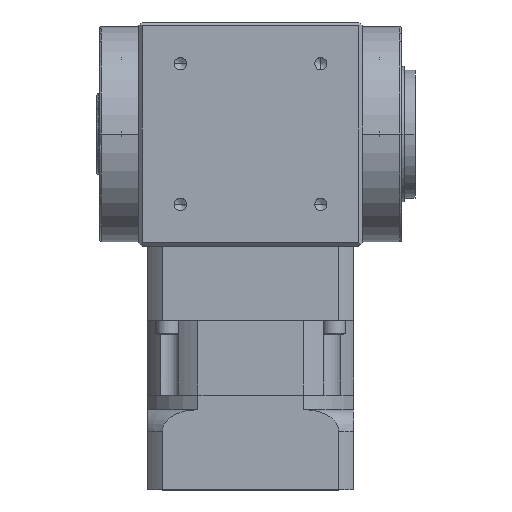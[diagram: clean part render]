
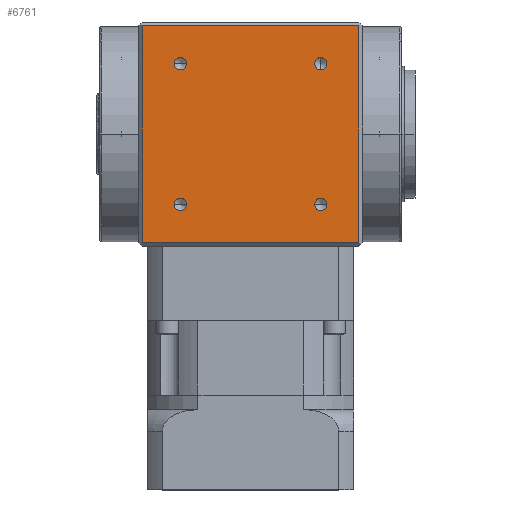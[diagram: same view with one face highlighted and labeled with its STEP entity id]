
A CAD part, top view. The second image highlights one B-rep face of the part: STEP entity #6761.
In plain terms, the highlighted planar face has unit normal (0, 0, 1).
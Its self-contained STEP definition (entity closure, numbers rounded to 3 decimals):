
#432 = EDGE_CURVE ( 'NONE', #13343, #6224, #23486, .T. ) ;
#484 = VERTEX_POINT ( 'NONE', #27154 ) ;
#718 = LINE ( 'NONE', #18609, #6153 ) ;
#1393 = DIRECTION ( 'NONE',  ( 0., 0., 1. ) ) ;
#1716 = EDGE_CURVE ( 'NONE', #21402, #19079, #16407, .T. ) ;
#2236 = DIRECTION ( 'NONE',  ( 0., -1., 0. ) ) ;
#2589 = FACE_BOUND ( 'NONE', #16194, .T. ) ;
#2688 = ORIENTED_EDGE ( 'NONE', *, *, #22907, .F. ) ;
#2698 = EDGE_LOOP ( 'NONE', ( #19444, #12757 ) ) ;
#3232 = ORIENTED_EDGE ( 'NONE', *, *, #20896, .F. ) ;
#3258 = VECTOR ( 'NONE', #16122, 1000. ) ;
#3843 = VERTEX_POINT ( 'NONE', #8086 ) ;
#4320 = CARTESIAN_POINT ( 'NONE',  ( -59.887, 256.3, 62. ) ) ;
#4451 = VECTOR ( 'NONE', #6081, 1000. ) ;
#5177 = CARTESIAN_POINT ( 'NONE',  ( 38.891, 157.409, 62. ) ) ;
#5341 = DIRECTION ( 'NONE',  ( 0., 0., 1. ) ) ;
#5505 = EDGE_CURVE ( 'NONE', #6224, #13343, #11185, .T. ) ;
#6081 = DIRECTION ( 'NONE',  ( 0., 1., 0. ) ) ;
#6153 = VECTOR ( 'NONE', #20832, 1000. ) ;
#6224 = VERTEX_POINT ( 'NONE', #20636 ) ;
#6761 = ADVANCED_FACE ( 'NONE', ( #8731, #14608, #20494, #2589, #25759 ), #10308, .F. ) ;
#7131 = CARTESIAN_POINT ( 'NONE',  ( -38.891, 157.409, 62. ) ) ;
#7178 = CARTESIAN_POINT ( 'NONE',  ( 59.887, 0., 62. ) ) ;
#7524 = DIRECTION ( 'NONE',  ( 0., -1., 0. ) ) ;
#7570 = DIRECTION ( 'NONE',  ( 0., 0., 1. ) ) ;
#8086 = CARTESIAN_POINT ( 'NONE',  ( 38.891, 231.791, 62. ) ) ;
#8353 = AXIS2_PLACEMENT_3D ( 'NONE', #18761, #5341, #20981 ) ;
#8362 = AXIS2_PLACEMENT_3D ( 'NONE', #29029, #15751, #2236 ) ;
#8595 = CARTESIAN_POINT ( 'NONE',  ( 59.887, 256.3, 62. ) ) ;
#8600 = EDGE_CURVE ( 'NONE', #16823, #19687, #15868, .T. ) ;
#8671 = VERTEX_POINT ( 'NONE', #26018 ) ;
#8731 = FACE_BOUND ( 'NONE', #2698, .T. ) ;
#9131 = ORIENTED_EDGE ( 'NONE', *, *, #14743, .F. ) ;
#9181 = CIRCLE ( 'NONE', #12376, 3.4 ) ;
#9284 = CARTESIAN_POINT ( 'NONE',  ( 38.891, 235.191, 62. ) ) ;
#10172 = DIRECTION ( 'NONE',  ( 0., 0., 1. ) ) ;
#10273 = AXIS2_PLACEMENT_3D ( 'NONE', #5177, #20814, #7524 ) ;
#10305 = VECTOR ( 'NONE', #21706, 1000. ) ;
#10308 = PLANE ( 'NONE',  #10969 ) ;
#10406 = DIRECTION ( 'NONE',  ( 0., 0., -1. ) ) ;
#10881 = DIRECTION ( 'NONE',  ( 0., -1., 0. ) ) ;
#10969 = AXIS2_PLACEMENT_3D ( 'NONE', #23710, #10406, #25971 ) ;
#11185 = CIRCLE ( 'NONE', #8362, 3.4 ) ;
#11262 = EDGE_CURVE ( 'NONE', #8671, #24237, #16471, .T. ) ;
#11499 = DIRECTION ( 'NONE',  ( 0., -1., 0. ) ) ;
#11953 = CARTESIAN_POINT ( 'NONE',  ( -38.891, 160.809, 62. ) ) ;
#12038 = CARTESIAN_POINT ( 'NONE',  ( -59.887, 0., 62. ) ) ;
#12192 = ORIENTED_EDGE ( 'NONE', *, *, #20013, .F. ) ;
#12376 = AXIS2_PLACEMENT_3D ( 'NONE', #9284, #24817, #11499 ) ;
#12577 = CARTESIAN_POINT ( 'NONE',  ( 38.891, 154.009, 62. ) ) ;
#12639 = EDGE_LOOP ( 'NONE', ( #2688, #25777, #27015, #26127 ) ) ;
#12757 = ORIENTED_EDGE ( 'NONE', *, *, #24714, .F. ) ;
#13320 = CIRCLE ( 'NONE', #8353, 3.4 ) ;
#13343 = VERTEX_POINT ( 'NONE', #11953 ) ;
#14608 = FACE_BOUND ( 'NONE', #29073, .T. ) ;
#14743 = EDGE_CURVE ( 'NONE', #24237, #8671, #27035, .T. ) ;
#14935 = CARTESIAN_POINT ( 'NONE',  ( 38.891, 157.409, 62. ) ) ;
#15522 = VERTEX_POINT ( 'NONE', #27511 ) ;
#15751 = DIRECTION ( 'NONE',  ( 0., 0., 1. ) ) ;
#15868 = CIRCLE ( 'NONE', #19393, 3.4 ) ;
#16104 = CARTESIAN_POINT ( 'NONE',  ( -59.887, 136.3, 62. ) ) ;
#16122 = DIRECTION ( 'NONE',  ( 0., -1., 0. ) ) ;
#16163 = ORIENTED_EDGE ( 'NONE', *, *, #11262, .F. ) ;
#16194 = EDGE_LOOP ( 'NONE', ( #23972, #17649 ) ) ;
#16407 = LINE ( 'NONE', #12038, #4451 ) ;
#16471 = CIRCLE ( 'NONE', #10273, 3.4 ) ;
#16688 = AXIS2_PLACEMENT_3D ( 'NONE', #14935, #1393, #17161 ) ;
#16823 = VERTEX_POINT ( 'NONE', #22658 ) ;
#17161 = DIRECTION ( 'NONE',  ( 0., -1., 0. ) ) ;
#17649 = ORIENTED_EDGE ( 'NONE', *, *, #432, .F. ) ;
#18609 = CARTESIAN_POINT ( 'NONE',  ( -75., 136.3, 62. ) ) ;
#18761 = CARTESIAN_POINT ( 'NONE',  ( 38.891, 235.191, 62. ) ) ;
#19079 = VERTEX_POINT ( 'NONE', #4320 ) ;
#19393 = AXIS2_PLACEMENT_3D ( 'NONE', #23459, #10172, #25723 ) ;
#19444 = ORIENTED_EDGE ( 'NONE', *, *, #8600, .F. ) ;
#19466 = EDGE_LOOP ( 'NONE', ( #9131, #16163 ) ) ;
#19470 = CARTESIAN_POINT ( 'NONE',  ( -75., 256.3, 62. ) ) ;
#19687 = VERTEX_POINT ( 'NONE', #21014 ) ;
#20013 = EDGE_CURVE ( 'NONE', #15522, #3843, #9181, .T. ) ;
#20494 = FACE_BOUND ( 'NONE', #19466, .T. ) ;
#20636 = CARTESIAN_POINT ( 'NONE',  ( -38.891, 154.009, 62. ) ) ;
#20814 = DIRECTION ( 'NONE',  ( 0., 0., 1. ) ) ;
#20832 = DIRECTION ( 'NONE',  ( -1., 0., 0. ) ) ;
#20860 = CARTESIAN_POINT ( 'NONE',  ( -38.891, 235.191, 62. ) ) ;
#20896 = EDGE_CURVE ( 'NONE', #3843, #15522, #13320, .T. ) ;
#20981 = DIRECTION ( 'NONE',  ( 0., -1., 0. ) ) ;
#21014 = CARTESIAN_POINT ( 'NONE',  ( -38.891, 238.591, 62. ) ) ;
#21402 = VERTEX_POINT ( 'NONE', #16104 ) ;
#21706 = DIRECTION ( 'NONE',  ( 1., 0., 0. ) ) ;
#21769 = CIRCLE ( 'NONE', #27633, 3.4 ) ;
#22638 = VERTEX_POINT ( 'NONE', #8595 ) ;
#22658 = CARTESIAN_POINT ( 'NONE',  ( -38.891, 231.791, 62. ) ) ;
#22907 = EDGE_CURVE ( 'NONE', #22638, #484, #26388, .T. ) ;
#23104 = DIRECTION ( 'NONE',  ( 0., -1., 0. ) ) ;
#23459 = CARTESIAN_POINT ( 'NONE',  ( -38.891, 235.191, 62. ) ) ;
#23486 = CIRCLE ( 'NONE', #26996, 3.4 ) ;
#23571 = EDGE_CURVE ( 'NONE', #484, #21402, #718, .T. ) ;
#23710 = CARTESIAN_POINT ( 'NONE',  ( -75., 258.3, 62. ) ) ;
#23972 = ORIENTED_EDGE ( 'NONE', *, *, #5505, .F. ) ;
#24237 = VERTEX_POINT ( 'NONE', #12577 ) ;
#24714 = EDGE_CURVE ( 'NONE', #19687, #16823, #21769, .T. ) ;
#24817 = DIRECTION ( 'NONE',  ( 0., 0., 1. ) ) ;
#25723 = DIRECTION ( 'NONE',  ( 0., -1., 0. ) ) ;
#25759 = FACE_OUTER_BOUND ( 'NONE', #12639, .T. ) ;
#25777 = ORIENTED_EDGE ( 'NONE', *, *, #29057, .F. ) ;
#25971 = DIRECTION ( 'NONE',  ( 0., 1., 0. ) ) ;
#26018 = CARTESIAN_POINT ( 'NONE',  ( 38.891, 160.809, 62. ) ) ;
#26127 = ORIENTED_EDGE ( 'NONE', *, *, #23571, .F. ) ;
#26388 = LINE ( 'NONE', #7178, #3258 ) ;
#26996 = AXIS2_PLACEMENT_3D ( 'NONE', #7131, #29020, #10881 ) ;
#27015 = ORIENTED_EDGE ( 'NONE', *, *, #1716, .F. ) ;
#27035 = CIRCLE ( 'NONE', #16688, 3.4 ) ;
#27154 = CARTESIAN_POINT ( 'NONE',  ( 59.887, 136.3, 62. ) ) ;
#27511 = CARTESIAN_POINT ( 'NONE',  ( 38.891, 238.591, 62. ) ) ;
#27633 = AXIS2_PLACEMENT_3D ( 'NONE', #20860, #7570, #23104 ) ;
#28035 = LINE ( 'NONE', #19470, #10305 ) ;
#29020 = DIRECTION ( 'NONE',  ( 0., 0., 1. ) ) ;
#29029 = CARTESIAN_POINT ( 'NONE',  ( -38.891, 157.409, 62. ) ) ;
#29057 = EDGE_CURVE ( 'NONE', #19079, #22638, #28035, .T. ) ;
#29073 = EDGE_LOOP ( 'NONE', ( #3232, #12192 ) ) ;
